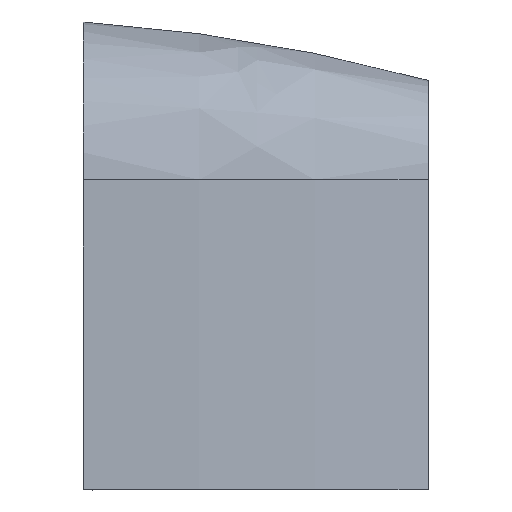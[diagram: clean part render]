
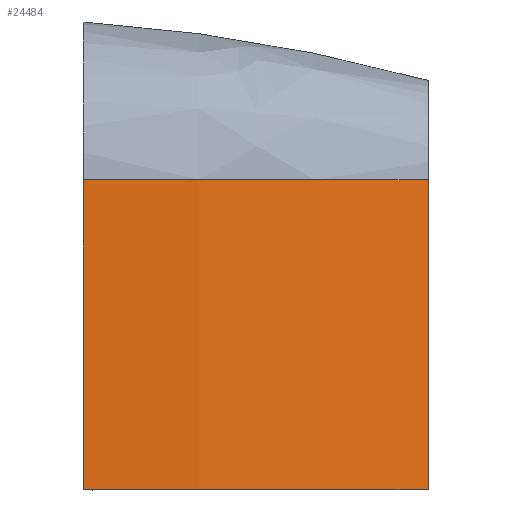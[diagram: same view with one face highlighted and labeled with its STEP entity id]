
A CAD part, left-side view. The second image highlights one B-rep face of the part: STEP entity #24484.
In plain terms, the highlighted cylindrical face has radius 3000 mm (diameter 6000 mm), a partial arc.
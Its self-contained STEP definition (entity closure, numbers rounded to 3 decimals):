
#4190=CARTESIAN_POINT('',(2093.068,0.,
793.825));
#4191=DIRECTION('',(0.,1.,0.));
#4192=DIRECTION('',(-0.964,0.,-0.265));
#4193=AXIS2_PLACEMENT_3D('',#4190,#4191,#4192);
#4814=DIRECTION('',(0.,1.,0.));
#4815=VECTOR('',#4814,530.);
#4816=CARTESIAN_POINT('',(-900.,-530.,590.));
#4817=LINE('',#4816,#4815);
#4818=DIRECTION('',(0.,-1.,0.));
#4819=VECTOR('',#4818,530.);
#4820=CARTESIAN_POINT('',(-800.,0.,
0.));
#4821=LINE('',#4820,#4819);
#4822=CARTESIAN_POINT('',(2093.068,-530.,793.825));
#4823=DIRECTION('',(0.,-1.,0.));
#4824=DIRECTION('',(-0.998,0.,-0.068));
#4825=AXIS2_PLACEMENT_3D('',#4822,#4823,#4824);
#8525=CARTESIAN_POINT('',(-800.,-530.,0.));
#8526=VERTEX_POINT('',#8525);
#8527=CARTESIAN_POINT('',(-800.,0.,
0.));
#8528=VERTEX_POINT('',#8527);
#8609=CARTESIAN_POINT('',(-900.,0.,590.));
#8610=VERTEX_POINT('',#8609);
#8641=CARTESIAN_POINT('',(-900.,-530.,590.));
#8642=VERTEX_POINT('',#8641);
#24471=CARTESIAN_POINT('',(2093.068,-265.,793.825));
#24472=DIRECTION('',(0.,-1.,0.));
#24473=DIRECTION('',(-0.999,0.,-0.034));
#24474=AXIS2_PLACEMENT_3D('',#24471,#24472,#24473);
#24475=CYLINDRICAL_SURFACE('',#24474,3000.);
#24477=ORIENTED_EDGE('',*,*,#24476,.F.);
#24479=ORIENTED_EDGE('',*,*,#24478,.T.);
#24480=ORIENTED_EDGE('',*,*,#21423,.F.);
#24481=ORIENTED_EDGE('',*,*,#16573,.T.);
#24482=EDGE_LOOP('',(#24477,#24479,#24480,#24481));
#24483=FACE_OUTER_BOUND('',#24482,.F.);
#24484=ADVANCED_FACE('',(#24483),#24475,.F.);
#4194=CIRCLE('',#4193,3000.);
#4826=CIRCLE('',#4825,3000.);
#16573=EDGE_CURVE('',#8528,#8526,#4821,.T.);
#21423=EDGE_CURVE('',#8528,#8610,#4194,.T.);
#24476=EDGE_CURVE('',#8642,#8526,#4826,.T.);
#24478=EDGE_CURVE('',#8642,#8610,#4817,.T.);
